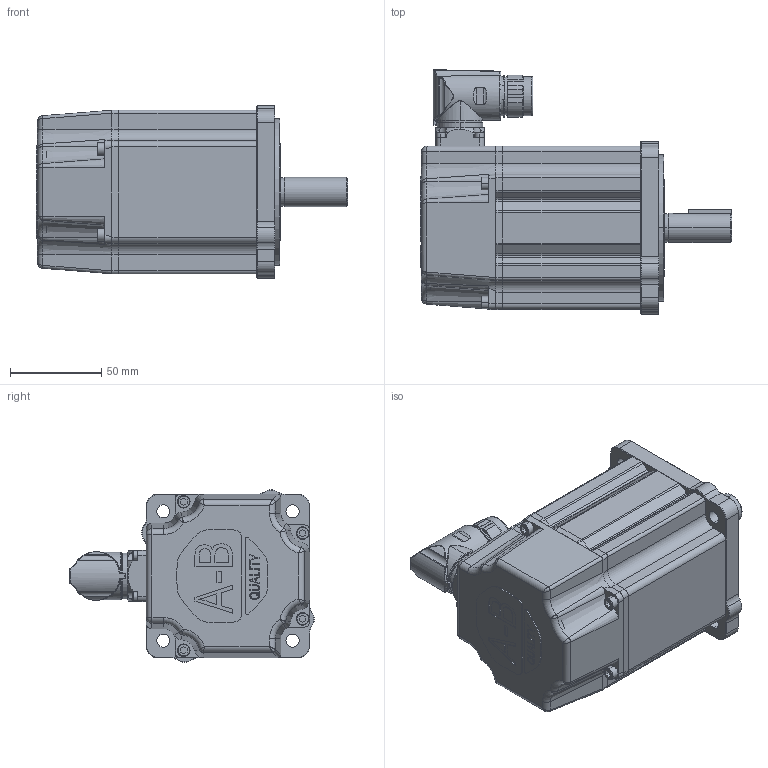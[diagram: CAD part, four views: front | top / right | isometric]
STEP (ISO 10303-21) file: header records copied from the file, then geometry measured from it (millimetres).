
FILE_DESCRIPTION (( 'STEP AP214' ), '1' );
FILE_NAME ('Rockwell Automation-$PARTNUMBER.STEP', '2014-07-07T18:16:49', ( 'Windows User' ), ( '' ), 'SwSTEP 2.0', 'SolidWorks 2014', '' );
FILE_SCHEMA (( 'AUTOMOTIVE_DESIGN' ));
Length unit declared in the file: inch
Products named in the file (4): Rockwell Automation-$PARTNUMBER; Rockwell Automation-$PARTNUMBER_Rockwell Automation-VPF-x1001x-xJx2xx_Connector; Rockwell Automation-$PARTNUMBER_Rockwell Automation-VPF-x1001x-xJx2xx_VPF-100-Shaft_1001-SHAFT-KEYED; Rockwell Automation-$PARTNUMBER_Rockwell Automation-VPF-x1001x-xJx2xx_VPF-100-Body_1001
Assembly tree (3 placements, depth 2):
  Rockwell Automation-$PARTNUMBER
    Rockwell Automation-$PARTNUMBER_Rockwell Automation-VPF-x1001x-xJx2xx_VPF-100-Body_1001
    Rockwell Automation-$PARTNUMBER_Rockwell Automation-VPF-x1001x-xJx2xx_VPF-100-Shaft_1001-SHAFT-KEYED
    Rockwell Automation-$PARTNUMBER_Rockwell Automation-VPF-x1001x-xJx2xx_Connector
Bounding box: 170.56 x 133.69 x 94.41 mm (x, y, z)
Volume: 378865.9 mm3; surface area: 143454.7 mm2
Topology: 8 solids, 8 shells, 1047 faces, 2593 edges, 1635 vertices
Faces by surface type: plane 462, cylinder 340, cone 93, bspline 92, torus 40, sphere 20
Entity records: 52527 total; most frequent: CARTESIAN_POINT 14180, ORIENTED_EDGE 5142, DIRECTION 5115, EDGE_CURVE 2571, AXIS2_PLACEMENT_3D 1835, VERTEX_POINT 1635, LINE 1445, VECTOR 1445
